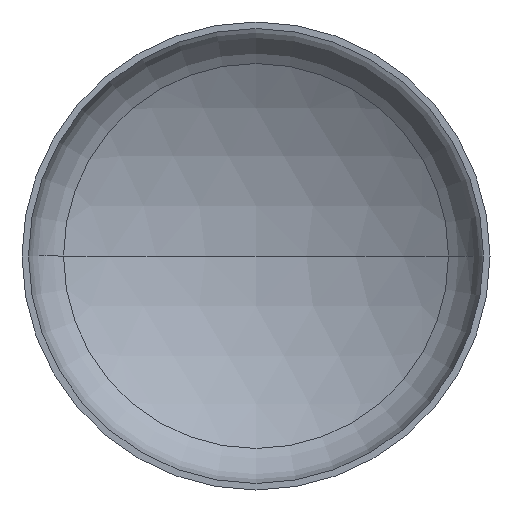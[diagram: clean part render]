
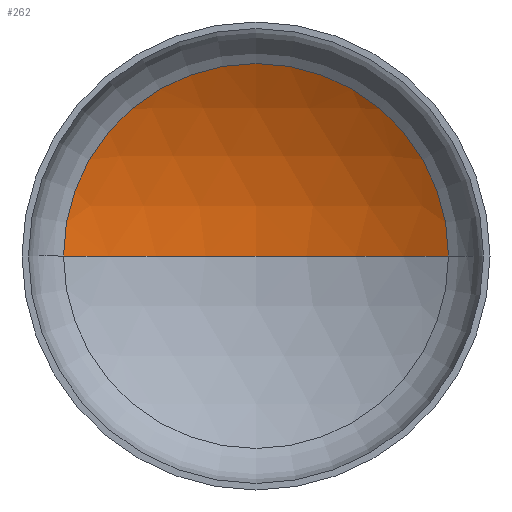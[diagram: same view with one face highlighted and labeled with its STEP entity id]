
A CAD part, front view. The second image highlights one B-rep face of the part: STEP entity #262.
In plain terms, the highlighted spherical face has radius 3200 mm.
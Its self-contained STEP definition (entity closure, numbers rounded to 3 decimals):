
#6 = ORIENTED_EDGE ( 'NONE', *, *, #117, .T. ) ;
#7 = VERTEX_POINT ( 'NONE', #368 ) ;
#14 = AXIS2_PLACEMENT_3D ( 'NONE', #97, #72, #188 ) ;
#20 = EDGE_LOOP ( 'NONE', ( #23, #6, #125 ) ) ;
#23 = ORIENTED_EDGE ( 'NONE', *, *, #130, .F. ) ;
#26 = VERTEX_POINT ( 'NONE', #264 ) ;
#33 = DIRECTION ( 'NONE',  ( -1., 0., 0. ) ) ;
#38 = AXIS2_PLACEMENT_3D ( 'NONE', #178, #90, #270 ) ;
#43 = AXIS2_PLACEMENT_3D ( 'NONE', #158, #170, #33 ) ;
#45 = AXIS2_PLACEMENT_3D ( 'NONE', #197, #200, #372 ) ;
#70 = VERTEX_POINT ( 'NONE', #256 ) ;
#72 = DIRECTION ( 'NONE',  ( 0., 0., -1. ) ) ;
#90 = DIRECTION ( 'NONE',  ( 0., 0., 1. ) ) ;
#97 = CARTESIAN_POINT ( 'NONE',  ( 0., -2097.202, 0. ) ) ;
#115 = EDGE_CURVE ( 'NONE', #7, #26, #349, .T. ) ;
#117 = EDGE_CURVE ( 'NONE', #70, #7, #160, .T. ) ;
#125 = ORIENTED_EDGE ( 'NONE', *, *, #115, .T. ) ;
#130 = EDGE_CURVE ( 'NONE', #70, #26, #279, .T. ) ;
#158 = CARTESIAN_POINT ( 'NONE',  ( 0., -2097.202, 0. ) ) ;
#160 = CIRCLE ( 'NONE', #43, 3200. ) ;
#170 = DIRECTION ( 'NONE',  ( 0., 0., -1. ) ) ;
#178 = CARTESIAN_POINT ( 'NONE',  ( 0., -2097.202, 0. ) ) ;
#188 = DIRECTION ( 'NONE',  ( -1., 0., 0. ) ) ;
#197 = CARTESIAN_POINT ( 'NONE',  ( 0., 647.497, 0. ) ) ;
#198 = FACE_OUTER_BOUND ( 'NONE', #20, .T. ) ;
#200 = DIRECTION ( 'NONE',  ( 0., -1., 0. ) ) ;
#256 = CARTESIAN_POINT ( 'NONE',  ( 0., 1102.798, 0. ) ) ;
#262 = ADVANCED_FACE ( 'NONE', ( #198 ), #330, .F. ) ;
#264 = CARTESIAN_POINT ( 'NONE',  ( -1645.184, 647.497, 0. ) ) ;
#270 = DIRECTION ( 'NONE',  ( 1., 0., 0. ) ) ;
#279 = CIRCLE ( 'NONE', #38, 3200. ) ;
#330 = SPHERICAL_SURFACE ( 'NONE', #14, 3200. ) ;
#349 = CIRCLE ( 'NONE', #45, 1645.184 ) ;
#368 = CARTESIAN_POINT ( 'NONE',  ( 1645.184, 647.497, 0. ) ) ;
#372 = DIRECTION ( 'NONE',  ( 1., 0., 0. ) ) ;
